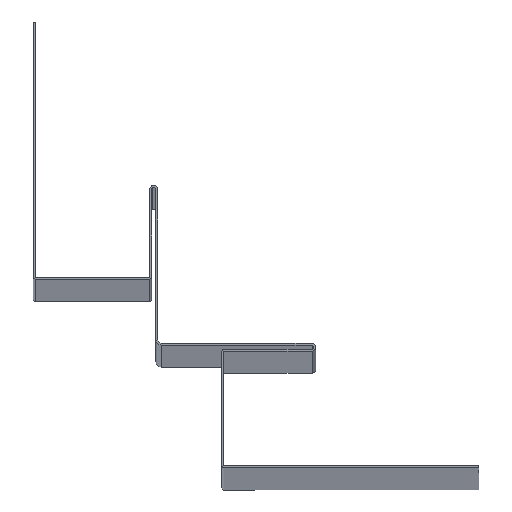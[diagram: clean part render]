
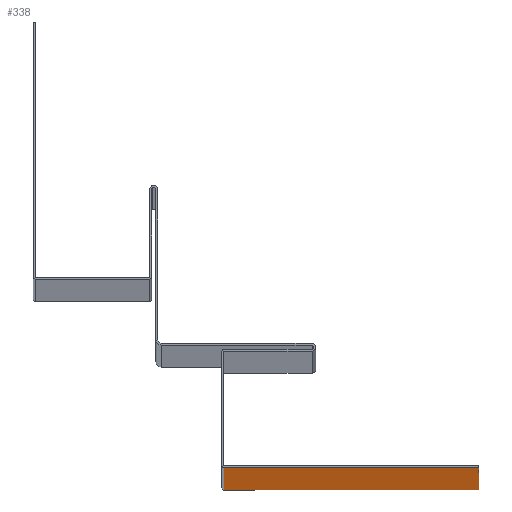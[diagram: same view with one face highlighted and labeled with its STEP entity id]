
A CAD part, top view. The second image highlights one B-rep face of the part: STEP entity #338.
In plain terms, the highlighted planar face has unit normal (0, -1, 0).
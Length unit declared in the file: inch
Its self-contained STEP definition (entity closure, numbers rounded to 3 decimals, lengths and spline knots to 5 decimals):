
#12 = VECTOR ( 'NONE', #841, 39.37008 ) ;
#25 = DIRECTION ( 'NONE',  ( 1., 0., 0. ) ) ;
#204 = CARTESIAN_POINT ( 'NONE',  ( 0.63, -1.16319, 120. ) ) ;
#326 = VERTEX_POINT ( 'NONE', #418 ) ;
#328 = ORIENTED_EDGE ( 'NONE', *, *, #483, .F. ) ;
#334 = ORIENTED_EDGE ( 'NONE', *, *, #990, .T. ) ;
#338 = ADVANCED_FACE ( 'NONE', ( #361 ), #465, .F. ) ;
#361 = FACE_OUTER_BOUND ( 'NONE', #673, .T. ) ;
#370 = EDGE_CURVE ( 'NONE', #871, #499, #520, .T. ) ;
#398 = LINE ( 'NONE', #666, #1104 ) ;
#418 = CARTESIAN_POINT ( 'NONE',  ( 3.0475, -1.16319, 120. ) ) ;
#431 = CARTESIAN_POINT ( 'NONE',  ( 0.63, -1.16319, 0. ) ) ;
#465 = PLANE ( 'NONE',  #957 ) ;
#477 = DIRECTION ( 'NONE',  ( 0., 1., 0. ) ) ;
#483 = EDGE_CURVE ( 'NONE', #871, #326, #1120, .T. ) ;
#492 = CARTESIAN_POINT ( 'NONE',  ( 0.63, -1.16319, 120. ) ) ;
#497 = DIRECTION ( 'NONE',  ( 0., 0., 1. ) ) ;
#499 = VERTEX_POINT ( 'NONE', #431 ) ;
#517 = VECTOR ( 'NONE', #757, 39.37008 ) ;
#520 = LINE ( 'NONE', #836, #12 ) ;
#546 = ORIENTED_EDGE ( 'NONE', *, *, #370, .T. ) ;
#619 = ORIENTED_EDGE ( 'NONE', *, *, #1110, .F. ) ;
#666 = CARTESIAN_POINT ( 'NONE',  ( 0.63, -1.16319, 0. ) ) ;
#673 = EDGE_LOOP ( 'NONE', ( #334, #619, #328, #546 ) ) ;
#680 = CARTESIAN_POINT ( 'NONE',  ( 3.0475, -1.16319, 120. ) ) ;
#688 = VERTEX_POINT ( 'NONE', #715 ) ;
#693 = CARTESIAN_POINT ( 'NONE',  ( 0.63, -1.16319, 120. ) ) ;
#715 = CARTESIAN_POINT ( 'NONE',  ( 3.0475, -1.16319, 0. ) ) ;
#729 = LINE ( 'NONE', #680, #517 ) ;
#757 = DIRECTION ( 'NONE',  ( 0., 0., -1. ) ) ;
#813 = DIRECTION ( 'NONE',  ( 1., 0., 0. ) ) ;
#836 = CARTESIAN_POINT ( 'NONE',  ( 0.63, -1.16319, 120. ) ) ;
#841 = DIRECTION ( 'NONE',  ( 0., 0., -1. ) ) ;
#871 = VERTEX_POINT ( 'NONE', #204 ) ;
#947 = VECTOR ( 'NONE', #813, 39.37008 ) ;
#957 = AXIS2_PLACEMENT_3D ( 'NONE', #492, #477, #497 ) ;
#990 = EDGE_CURVE ( 'NONE', #499, #688, #398, .T. ) ;
#1104 = VECTOR ( 'NONE', #25, 39.37008 ) ;
#1110 = EDGE_CURVE ( 'NONE', #326, #688, #729, .T. ) ;
#1120 = LINE ( 'NONE', #693, #947 ) ;
